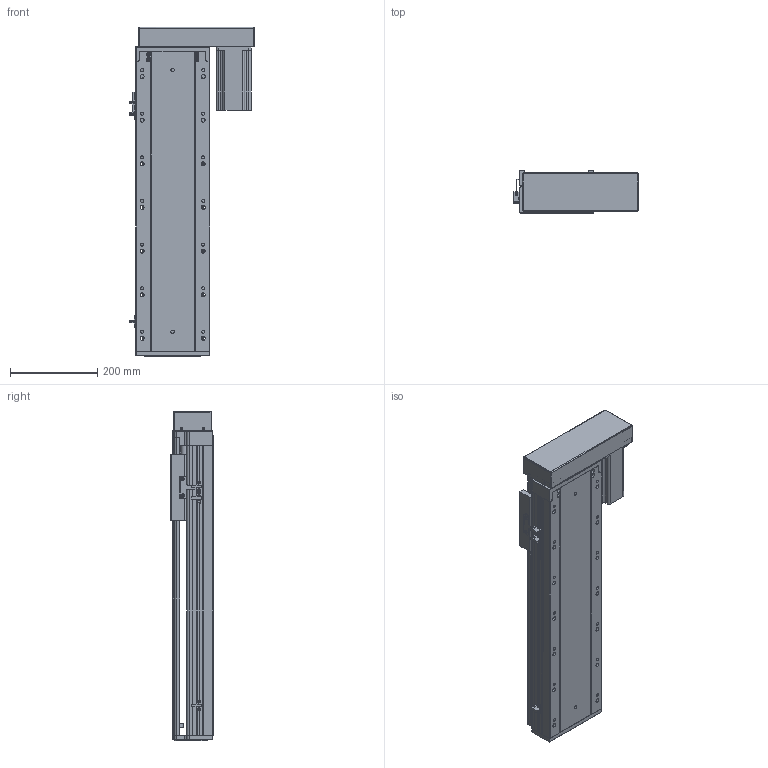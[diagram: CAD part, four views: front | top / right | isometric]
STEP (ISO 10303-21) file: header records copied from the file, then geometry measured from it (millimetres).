
FILE_DESCRIPTION (( 'STEP AP203' ), '1' );
FILE_NAME ('RY170-L2510-300-RK.SLDASM_450.step', '2021-03-12T09:19:09', ( '盈信电脑' ), ( '东莞市道滘镇水果街19号' ), 'SwSTEP 2.0', 'SolidWorks 2012', '' );
FILE_SCHEMA (( 'CONFIG_CONTROL_DESIGN' ));
Length unit declared in the file: millimetre
Products named in the file (14): RY170-L2510-300-RK.SLDASM_450; RY170-酘衵殏750W萇儂傷; 覜茼ん672; RY170外置感应片(200共用）; 怢湛750W萇儂ㄗ80遺ㄘ; RY170转折电机端支撑座(7004); RY170-左右折电机安装板750W; RY170酘衵殏萇儂欶750W; 滅袉蝶18-10; 滅袉蝶18-20; RY170綴裔啣; 改造-RY170铝滑块25丝杆螺母; RY170-300倰第裔啣-RK_450; RY170-300倰第菁釱-RK_450
Assembly tree (15 placements, depth 3):
  RY170-L2510-300-RK.SLDASM_450
    RY170-300倰第菁釱-RK_450
    改造-RY170铝滑块25丝杆螺母
    RY170-300倰第裔啣-RK_450
    RY170綴裔啣
    滅袉蝶18-20
    滅袉蝶18-10
    RY170转折电机端支撑座(7004)
    RY170-酘衵殏750W萇儂傷
      RY170-左右折电机安装板750W
      RY170酘衵殏萇儂欶750W
      怢湛750W萇儂ㄗ80遺ㄘ
    覜茼ん672  x3
    RY170外置感应片(200共用）
Bounding box: 286.2 x 97 x 755 mm (x, y, z)
Volume: 4908876.4 mm3; surface area: 1442602.7 mm2
Topology: 14 solids, 14 shells, 2119 faces, 6078 edges, 3922 vertices
Faces by surface type: plane 1086, cylinder 864, cone 150, bspline 19
Entity records: 68595 total; most frequent: CARTESIAN_POINT 16413, ORIENTED_EDGE 10948, DIRECTION 10102, EDGE_CURVE 5474, VERTEX_POINT 3602, LINE 3404, VECTOR 3404, AXIS2_PLACEMENT_3D 3349
